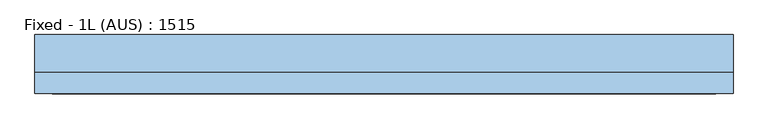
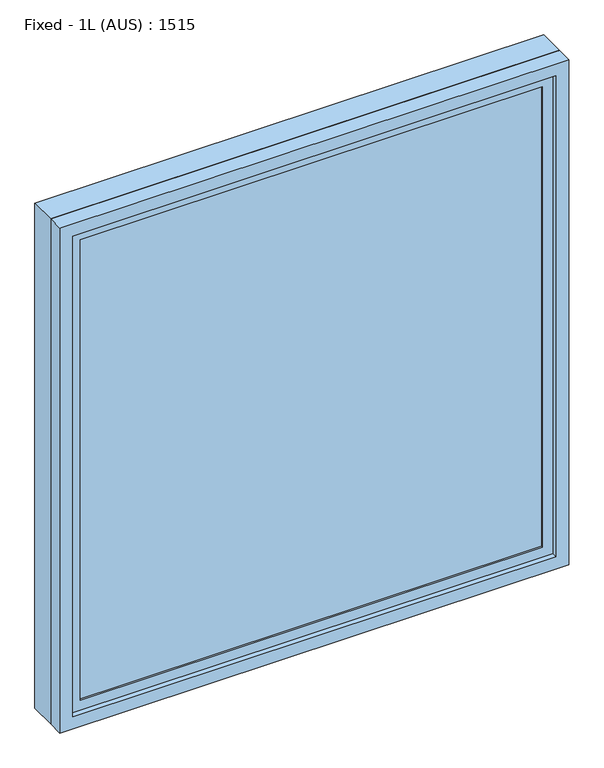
"""IFC4 building model written with IfcOpenShell, lengths in millimetres: window geometry, Fixed - 1L (AUS) : 1515."""

from ifc_helpers import new_model, si_unit, frame, origin, place, context, project, spatial, polyline, outline, extrude, source, transform, mapped, element, save


def fixed_1l_aus_1515_89e3e0c6(model_context):
    return source(origin(), model_context, "Body", "SweptSolid", [
        extrude(outline(polyline([(975.173759, -9.471869), (975.173759, -15.471869), (-322.826241, -15.471869), (-322.826241, -9.471869), (975.173759, -9.471869)])), frame((0.0, 0.0, 966.0), z_axis=(0.0, 0.0, 1.0), x_axis=(1.0, 0.0, 0.0)), (0.0, 0.0, 1.0), 1368.0),
        extrude(outline(polyline([(2364.0, -352.826241), (936.0, -352.826241), (936.0, 1005.173759), (2364.0, 1005.173759), (2364.0, -352.826241)]), holes=[polyline([(966.0, -322.826241), (2334.0, -322.826241), (2334.0, 975.173759), (966.0, 975.173759), (966.0, -322.826241)])]), frame((0.0, -19.971869, 0.0), z_axis=(0.0, 1.0, 0.0), x_axis=(0.0, 0.0, 1.0)), (0.0, 0.0, 1.0), 15.0),
        extrude(outline(polyline([(2400.0, -388.826241), (900.0, -388.826241), (900.0, 1041.173759), (2400.0, 1041.173759), (2400.0, -388.826241)]), holes=[polyline([(920.0, -368.826241), (2380.0, -368.826241), (2380.0, 1021.173759), (920.0, 1021.173759), (920.0, -368.826241)])]), frame((0.0, 10.0, 0.0), z_axis=(0.0, 1.0, 0.0), x_axis=(0.0, 0.0, 1.0)), (0.0, 0.0, 1.0), 76.0),
        extrude(outline(polyline([(2400.0, -388.826241), (900.0, -388.826241), (900.0, 1041.173759), (2400.0, 1041.173759), (2400.0, -388.826241)]), holes=[polyline([(936.0, -352.826241), (2364.0, -352.826241), (2364.0, 1005.173759), (936.0, 1005.173759), (936.0, -352.826241)])]), frame((0.0, -35.0, 0.0), z_axis=(0.0, 1.0, 0.0), x_axis=(0.0, 0.0, 1.0)), (0.0, 0.0, 1.0), 45.0),
    ])


if __name__ == "__main__":
    model = new_model("IFC4")
    model_context = context("Model", 3, world=origin())
    ifc_project = project(units=[si_unit("LENGTHUNIT", "METRE", prefix="MILLI")], contexts=[model_context])
    site = spatial("IfcSite", under=ifc_project)
    building = spatial("IfcBuilding", under=site)
    placement = place(None, origin())
    fixed_1l_aus_1515_shape = fixed_1l_aus_1515_89e3e0c6(model_context)
    element("IfcWindow", 1, ObjectType="Fixed - 1L (AUS) : 1515", at=placement, inside=building, context=model_context, shape_type="MappedRepresentation", body=[
        mapped(fixed_1l_aus_1515_shape, transform((0.0, 0.0, 0.0), x_axis=(1.0, 0.0, 0.0), y_axis=(0.0, 1.0, 0.0), z_axis=(0.0, 0.0, 1.0))),
    ])
    save(model, "model.ifc")
